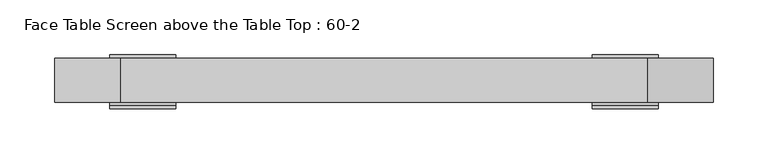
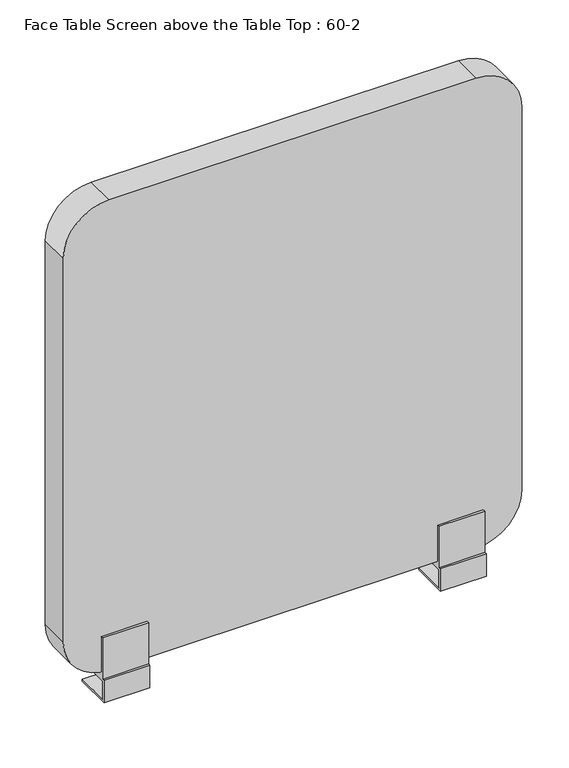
"""IFC4 building model written with IfcOpenShell, lengths in millimetres: furniture geometry, Face Table Screen above the Table Top : 60-2."""

from ifc_helpers import new_model, si_unit, point, frame, frame_2d, origin, place, context, project, spatial, polyline, circle_curve, trimmed, segment, composite_curve, outline, extrude, source, transform, mapped, element, save
from ifc_brep_helpers import plane_surface, cylinder_surface, advanced_brep


def face_table_screen_above_the_table_top_60_2_7d289e71(model_context):
    return source(origin(), model_context, "Body", "SolidModel", [
        advanced_brep(
        [(-225.0, 0.0, -39.4406633), (-215.0, 0.0, -39.4406633), (-215.0, 0.0, -28.0), (-225.0, 0.0, -28.0), (-250.0, 23.0, -25.0), (-250.0, -23.0, -25.0), (-190.0, -23.0, -25.0), (-190.0, 23.0, -25.0), (-250.0, -23.0, 0.0), (-250.0, 23.0, -28.0), (-250.0, -26.0, -28.0), (-250.0, -26.0, 3.0), (-250.0, -23.0, 3.0), (-250.0, -23.0, 60.0), (-250.0, -20.0, 60.0), (-250.0, -20.0, 10.0), (-250.0, 20.0, 10.0), (-250.0, 20.0, 60.0), (-250.0, 23.0, 60.0), (-250.0, 23.0, 0.0), (-190.0, -23.0, 0.0), (-190.0, 23.0, 0.0), (-190.0, 23.0, 60.0), (-190.0, 20.0, 60.0), (-190.0, 20.0, 10.0), (-190.0, -20.0, 10.0), (-190.0, -20.0, 60.0), (-190.0, -23.0, 60.0), (-190.0, -23.0, 3.0), (-190.0, -26.0, 3.0), (-190.0, -26.0, -28.0), (-190.0, 23.0, -28.0)],
        [
            (0, 1, circle_curve(frame((-220.0, 0.0, -39.4406633), z_axis=(0.0, 0.0, -1.0), x_axis=(1.0, 0.0, 0.0)), 5.0)),
            (1, 0, circle_curve(frame((-220.0, 0.0, -39.4406633), z_axis=(0.0, 0.0, -1.0), x_axis=(1.0, 0.0, 0.0)), 5.0)),
            (1, 2),
            (2, 3, circle_curve(frame((-220.0, 0.0, -28.0), z_axis=(0.0, 0.0, -1.0), x_axis=(1.0, 0.0, 0.0)), 5.0)),
            (3, 0),
            (3, 2, circle_curve(frame((-220.0, 0.0, -28.0), z_axis=(0.0, 0.0, -1.0), x_axis=(1.0, 0.0, 0.0)), 5.0)),
            (4, 5),
            (5, 6),
            (6, 7),
            (7, 4),
            (8, 5),
            (4, 9),
            (9, 10),
            (10, 11),
            (11, 12),
            (12, 13),
            (13, 14),
            (14, 15),
            (15, 16),
            (16, 17),
            (17, 18),
            (18, 19),
            (19, 8),
            (20, 21),
            (21, 22),
            (22, 23),
            (23, 24),
            (24, 25),
            (25, 26),
            (26, 27),
            (27, 28),
            (28, 29),
            (29, 30),
            (30, 31),
            (31, 7),
            (6, 20),
            (19, 21),
            (20, 8),
            (18, 22),
            (17, 23),
            (16, 24),
            (15, 25),
            (14, 26),
            (13, 27),
            (12, 28),
            (11, 29),
            (10, 30),
            (9, 31),
        ],
        [
            plane_surface(frame((-215.0, 0.0, -39.4406633), z_axis=(0.0, 0.0, -1.0), x_axis=(0.0, -1.0, 0.0))),
            cylinder_surface(frame((-220.0, 0.0, -39.4406633), z_axis=(0.0, 0.0, 1.0), x_axis=(1.0, 0.0, 0.0)), 5.0),
            plane_surface(frame((-215.0, 0.0, -25.0), z_axis=(0.0, 0.0, 1.0), x_axis=(0.0, 1.0, 0.0))),
            plane_surface(frame((-250.0, 23.0, 0.0), z_axis=(-1.0, 0.0, 0.0), x_axis=(0.0, -1.0, 0.0))),
            plane_surface(frame((-190.0, 23.0, 0.0), z_axis=(1.0, 0.0, 0.0), x_axis=(0.0, 1.0, 0.0))),
            plane_surface(frame((-190.0, -23.0, 0.0), z_axis=(0.0, 0.0, -1.0), x_axis=(-1.0, 0.0, 0.0))),
            plane_surface(frame((-190.0, 23.0, 0.0), z_axis=(0.0, 1.0, 0.0), x_axis=(-1.0, 0.0, 0.0))),
            plane_surface(frame((-190.0, 23.0, 60.0), z_axis=(0.0, 0.0, 1.0), x_axis=(-1.0, 0.0, 0.0))),
            plane_surface(frame((-190.0, 20.0, 60.0), z_axis=(0.0, -1.0, 0.0), x_axis=(-1.0, 0.0, 0.0))),
            plane_surface(frame((-190.0, 20.0, 10.0), z_axis=(0.0, 0.0, 1.0), x_axis=(-1.0, 0.0, 0.0))),
            plane_surface(frame((-190.0, -20.0, 10.0), z_axis=(0.0, 1.0, 0.0), x_axis=(-1.0, 0.0, 0.0))),
            plane_surface(frame((-190.0, -20.0, 60.0), z_axis=(0.0, 0.0, 1.0), x_axis=(-1.0, 0.0, 0.0))),
            plane_surface(frame((-190.0, -23.0, 60.0), z_axis=(0.0, -1.0, 0.0), x_axis=(-1.0, 0.0, 0.0))),
            plane_surface(frame((-190.0, -23.0, 3.0), z_axis=(0.0, 0.0, 1.0), x_axis=(-1.0, 0.0, 0.0))),
            plane_surface(frame((-190.0, -26.0, 3.0), z_axis=(0.0, -1.0, 0.0), x_axis=(-1.0, 0.0, 0.0))),
            plane_surface(frame((-190.0, -26.0, -28.0), z_axis=(0.0, 0.0, -1.0), x_axis=(-1.0, 0.0, 0.0))),
            plane_surface(frame((-190.0, 23.0, -28.0), z_axis=(0.0, 1.0, 0.0), x_axis=(-1.0, 0.0, 0.0))),
            plane_surface(frame((-190.0, -23.0, -25.0), z_axis=(0.0, 1.0, 0.0), x_axis=(-1.0, 0.0, 0.0))),
        ],
        [
            (0, [[1, 2]]),
            (1, [[-2, 3, 4, 5]]),
            (1, [[-1, -5, 6, -3]]),
            (2, [[7, 8, 9, 10]]),
            (3, [[11, -7, 12, 13, 14, 15, 16, 17, 18, 19, 20, 21, 22, 23]]),
            (4, [[24, 25, 26, 27, 28, 29, 30, 31, 32, 33, 34, 35, -9, 36]]),
            (5, [[-23, 37, -24, 38]]),
            (6, [[-22, 39, -25, -37]]),
            (7, [[-21, 40, -26, -39]]),
            (8, [[-20, 41, -27, -40]]),
            (9, [[-19, 42, -28, -41]]),
            (10, [[-18, 43, -29, -42]]),
            (11, [[-17, 44, -30, -43]]),
            (12, [[-16, 45, -31, -44]]),
            (13, [[-15, 46, -32, -45]]),
            (14, [[-14, 47, -33, -46]]),
            (15, [[-13, 48, -34, -47], [-4, -6]]),
            (16, [[-12, -10, -35, -48]]),
            (17, [[-11, -38, -36, -8]]),
        ],
    ),
        advanced_brep(
        [(215.0, 0.0, -39.4406633), (225.0, 0.0, -39.4406633), (225.0, 0.0, -28.0), (215.0, 0.0, -28.0), (190.0, 23.0, -25.0), (190.0, -23.0, -25.0), (250.0, -23.0, -25.0), (250.0, 23.0, -25.0), (190.0, -23.0, 0.0), (190.0, 23.0, -28.0), (190.0, -26.0, -28.0), (190.0, -26.0, 3.0), (190.0, -23.0, 3.0), (190.0, -23.0, 60.0), (190.0, -20.0, 60.0), (190.0, -20.0, 10.0), (190.0, 20.0, 10.0), (190.0, 20.0, 60.0), (190.0, 23.0, 60.0), (190.0, 23.0, 0.0), (250.0, -23.0, 0.0), (250.0, 23.0, 0.0), (250.0, 23.0, 60.0), (250.0, 20.0, 60.0), (250.0, 20.0, 10.0), (250.0, -20.0, 10.0), (250.0, -20.0, 60.0), (250.0, -23.0, 60.0), (250.0, -23.0, 3.0), (250.0, -26.0, 3.0), (250.0, -26.0, -28.0), (250.0, 23.0, -28.0)],
        [
            (0, 1, circle_curve(frame((220.0, 0.0, -39.4406633), z_axis=(0.0, 0.0, -1.0), x_axis=(1.0, 0.0, 0.0)), 5.0)),
            (1, 0, circle_curve(frame((220.0, 0.0, -39.4406633), z_axis=(0.0, 0.0, -1.0), x_axis=(1.0, 0.0, 0.0)), 5.0)),
            (1, 2),
            (2, 3, circle_curve(frame((220.0, 0.0, -28.0), z_axis=(0.0, 0.0, -1.0), x_axis=(1.0, 0.0, 0.0)), 5.0)),
            (3, 0),
            (3, 2, circle_curve(frame((220.0, 0.0, -28.0), z_axis=(0.0, 0.0, -1.0), x_axis=(1.0, 0.0, 0.0)), 5.0)),
            (4, 5),
            (5, 6),
            (6, 7),
            (7, 4),
            (8, 5),
            (4, 9),
            (9, 10),
            (10, 11),
            (11, 12),
            (12, 13),
            (13, 14),
            (14, 15),
            (15, 16),
            (16, 17),
            (17, 18),
            (18, 19),
            (19, 8),
            (20, 21),
            (21, 22),
            (22, 23),
            (23, 24),
            (24, 25),
            (25, 26),
            (26, 27),
            (27, 28),
            (28, 29),
            (29, 30),
            (30, 31),
            (31, 7),
            (6, 20),
            (19, 21),
            (20, 8),
            (18, 22),
            (17, 23),
            (16, 24),
            (15, 25),
            (14, 26),
            (13, 27),
            (12, 28),
            (11, 29),
            (10, 30),
            (9, 31),
        ],
        [
            plane_surface(frame((225.0, 0.0, -39.4406633), z_axis=(0.0, 0.0, -1.0), x_axis=(0.0, -1.0, 0.0))),
            cylinder_surface(frame((220.0, 0.0, -39.4406633), z_axis=(0.0, 0.0, 1.0), x_axis=(1.0, 0.0, 0.0)), 5.0),
            plane_surface(frame((225.0, 0.0, -25.0), z_axis=(0.0, 0.0, 1.0), x_axis=(0.0, 1.0, 0.0))),
            plane_surface(frame((190.0, 23.0, 0.0), z_axis=(-1.0, 0.0, 0.0), x_axis=(0.0, -1.0, 0.0))),
            plane_surface(frame((250.0, 23.0, 0.0), z_axis=(1.0, 0.0, 0.0), x_axis=(0.0, 1.0, 0.0))),
            plane_surface(frame((250.0, -23.0, 0.0), z_axis=(0.0, 0.0, -1.0), x_axis=(-1.0, 0.0, 0.0))),
            plane_surface(frame((250.0, 23.0, 0.0), z_axis=(0.0, 1.0, 0.0), x_axis=(-1.0, 0.0, 0.0))),
            plane_surface(frame((250.0, 23.0, 60.0), z_axis=(0.0, 0.0, 1.0), x_axis=(-1.0, 0.0, 0.0))),
            plane_surface(frame((250.0, 20.0, 60.0), z_axis=(0.0, -1.0, 0.0), x_axis=(-1.0, 0.0, 0.0))),
            plane_surface(frame((250.0, 20.0, 10.0), z_axis=(0.0, 0.0, 1.0), x_axis=(-1.0, 0.0, 0.0))),
            plane_surface(frame((250.0, -20.0, 10.0), z_axis=(0.0, 1.0, 0.0), x_axis=(-1.0, 0.0, 0.0))),
            plane_surface(frame((250.0, -20.0, 60.0), z_axis=(0.0, 0.0, 1.0), x_axis=(-1.0, 0.0, 0.0))),
            plane_surface(frame((250.0, -23.0, 60.0), z_axis=(0.0, -1.0, 0.0), x_axis=(-1.0, 0.0, 0.0))),
            plane_surface(frame((250.0, -23.0, 3.0), z_axis=(0.0, 0.0, 1.0), x_axis=(-1.0, 0.0, 0.0))),
            plane_surface(frame((250.0, -26.0, 3.0), z_axis=(0.0, -1.0, 0.0), x_axis=(-1.0, 0.0, 0.0))),
            plane_surface(frame((250.0, -26.0, -28.0), z_axis=(0.0, 0.0, -1.0), x_axis=(-1.0, 0.0, 0.0))),
            plane_surface(frame((250.0, 23.0, -28.0), z_axis=(0.0, 1.0, 0.0), x_axis=(-1.0, 0.0, 0.0))),
            plane_surface(frame((250.0, -23.0, -25.0), z_axis=(0.0, 1.0, 0.0), x_axis=(-1.0, 0.0, 0.0))),
        ],
        [
            (0, [[1, 2]]),
            (1, [[-2, 3, 4, 5]]),
            (1, [[-1, -5, 6, -3]]),
            (2, [[7, 8, 9, 10]]),
            (3, [[11, -7, 12, 13, 14, 15, 16, 17, 18, 19, 20, 21, 22, 23]]),
            (4, [[24, 25, 26, 27, 28, 29, 30, 31, 32, 33, 34, 35, -9, 36]]),
            (5, [[-23, 37, -24, 38]]),
            (6, [[-22, 39, -25, -37]]),
            (7, [[-21, 40, -26, -39]]),
            (8, [[-20, 41, -27, -40]]),
            (9, [[-19, 42, -28, -41]]),
            (10, [[-18, 43, -29, -42]]),
            (11, [[-17, 44, -30, -43]]),
            (12, [[-16, 45, -31, -44]]),
            (13, [[-15, 46, -32, -45]]),
            (14, [[-14, 47, -33, -46]]),
            (15, [[-13, 48, -34, -47], [-4, -6]]),
            (16, [[-12, -10, -35, -48]]),
            (17, [[-11, -38, -36, -8]]),
        ],
    ),
        extrude(outline(composite_curve([segment(polyline([(660.0, 240.0), (660.0, -240.0)]), True, "CONTINUOUS"), segment(trimmed(circle_curve(frame_2d((600.0, -240.0)), 60.0), [point((660.0, -240.0))], [point((600.0, -300.0))], False, "CARTESIAN"), True, "CONTINUOUS"), segment(polyline([(600.0, -300.0), (70.0, -300.0)]), True, "CONTINUOUS"), segment(trimmed(circle_curve(frame_2d((70.0, -240.0)), 60.0), [point((70.0, -300.0))], [point((10.0, -240.0))], False, "CARTESIAN"), True, "CONTINUOUS"), segment(polyline([(10.0, -240.0), (10.0, 240.0)]), True, "CONTINUOUS"), segment(trimmed(circle_curve(frame_2d((70.0, 240.0)), 60.0), [point((10.0, 240.0))], [point((70.0, 300.0))], False, "CARTESIAN"), True, "CONTINUOUS"), segment(polyline([(70.0, 300.0), (600.0, 300.0)]), True, "CONTINUOUS"), segment(trimmed(circle_curve(frame_2d((600.0, 240.0)), 60.0), [point((600.0, 300.0))], [point((660.0, 240.0))], False, "CARTESIAN"), True, "CONTINUOUS")], self_intersect=False)), frame((0.0, -20.0, 0.0), z_axis=(0.0, 1.0, 0.0), x_axis=(0.0, 0.0, 1.0)), (0.0, 0.0, 1.0), 40.0),
    ])


if __name__ == "__main__":
    model = new_model("IFC4")
    model_context = context("Model", 3, world=origin())
    ifc_project = project(units=[si_unit("LENGTHUNIT", "METRE", prefix="MILLI")], contexts=[model_context])
    site = spatial("IfcSite", under=ifc_project)
    building = spatial("IfcBuilding", under=site)
    placement = place(None, origin())
    face_table_screen_above_the_table_top_60_2_shape = face_table_screen_above_the_table_top_60_2_7d289e71(model_context)
    element("IfcFurniture", 1, ObjectType="Face Table Screen above the Table Top : 60-2", at=placement, inside=building, context=model_context, shape_type="MappedRepresentation", body=[
        mapped(face_table_screen_above_the_table_top_60_2_shape, transform((0.0, 0.0, 0.0), x_axis=(1.0, 0.0, 0.0), y_axis=(0.0, 1.0, 0.0), z_axis=(0.0, 0.0, 1.0))),
    ])
    save(model, "model.ifc")
